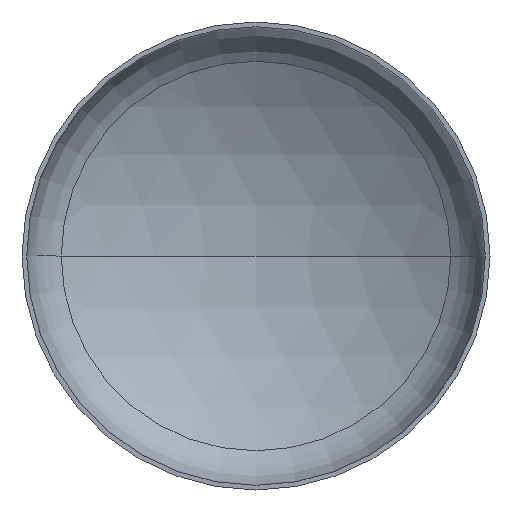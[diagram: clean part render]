
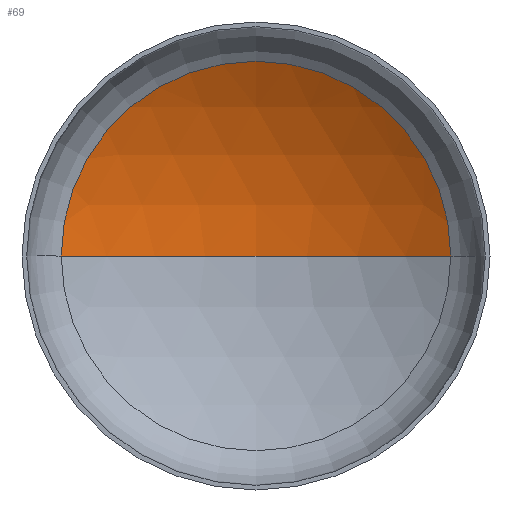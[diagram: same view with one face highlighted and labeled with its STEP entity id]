
A CAD part, front view. The second image highlights one B-rep face of the part: STEP entity #69.
In plain terms, the highlighted spherical face has radius 3040 mm.
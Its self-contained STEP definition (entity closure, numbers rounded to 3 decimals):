
#5 = AXIS2_PLACEMENT_3D ( 'NONE', #150, #57, #357 ) ;
#15 = AXIS2_PLACEMENT_3D ( 'NONE', #274, #119, #379 ) ;
#20 = AXIS2_PLACEMENT_3D ( 'NONE', #67, #70, #76 ) ;
#40 = FACE_OUTER_BOUND ( 'NONE', #317, .T. ) ;
#42 = AXIS2_PLACEMENT_3D ( 'NONE', #296, #316, #372 ) ;
#52 = VERTEX_POINT ( 'NONE', #204 ) ;
#57 = DIRECTION ( 'NONE',  ( 0., 0., 1. ) ) ;
#67 = CARTESIAN_POINT ( 'NONE',  ( 0., 619.629, 0. ) ) ;
#69 = ADVANCED_FACE ( 'NONE', ( #40 ), #284, .F. ) ;
#70 = DIRECTION ( 'NONE',  ( 0., -1., 0. ) ) ;
#76 = DIRECTION ( 'NONE',  ( 1., 0., 0. ) ) ;
#77 = CIRCLE ( 'NONE', #15, 3040. ) ;
#110 = CARTESIAN_POINT ( 'NONE',  ( 1581.295, 619.629, 0. ) ) ;
#118 = CARTESIAN_POINT ( 'NONE',  ( 0., 1063.265, 0. ) ) ;
#119 = DIRECTION ( 'NONE',  ( 0., 0., -1. ) ) ;
#120 = ORIENTED_EDGE ( 'NONE', *, *, #319, .T. ) ;
#150 = CARTESIAN_POINT ( 'NONE',  ( 0., -1976.735, 0. ) ) ;
#151 = VERTEX_POINT ( 'NONE', #118 ) ;
#204 = CARTESIAN_POINT ( 'NONE',  ( -1581.295, 619.629, 0. ) ) ;
#213 = ORIENTED_EDGE ( 'NONE', *, *, #380, .F. ) ;
#223 = CIRCLE ( 'NONE', #5, 3040. ) ;
#274 = CARTESIAN_POINT ( 'NONE',  ( 0., -1976.735, 0. ) ) ;
#284 = SPHERICAL_SURFACE ( 'NONE', #42, 3040. ) ;
#296 = CARTESIAN_POINT ( 'NONE',  ( 0., -1976.735, 0. ) ) ;
#301 = EDGE_CURVE ( 'NONE', #323, #52, #318, .T. ) ;
#316 = DIRECTION ( 'NONE',  ( 0., 0., -1. ) ) ;
#317 = EDGE_LOOP ( 'NONE', ( #213, #120, #375 ) ) ;
#318 = CIRCLE ( 'NONE', #20, 1581.295 ) ;
#319 = EDGE_CURVE ( 'NONE', #151, #323, #77, .T. ) ;
#323 = VERTEX_POINT ( 'NONE', #110 ) ;
#357 = DIRECTION ( 'NONE',  ( 1., 0., 0. ) ) ;
#372 = DIRECTION ( 'NONE',  ( -1., 0., 0. ) ) ;
#375 = ORIENTED_EDGE ( 'NONE', *, *, #301, .T. ) ;
#379 = DIRECTION ( 'NONE',  ( -1., 0., 0. ) ) ;
#380 = EDGE_CURVE ( 'NONE', #151, #52, #223, .T. ) ;
